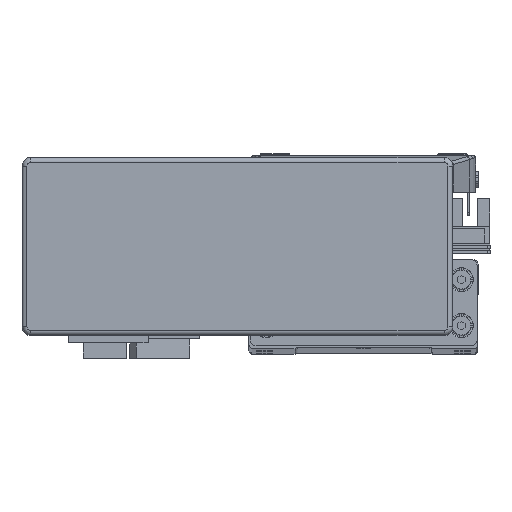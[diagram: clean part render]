
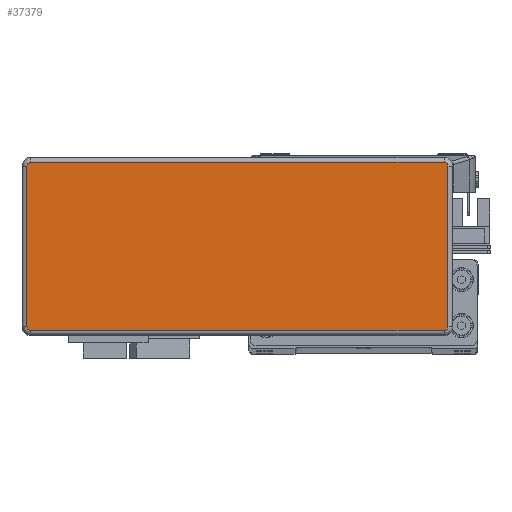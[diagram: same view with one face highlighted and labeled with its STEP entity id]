
A CAD part, top view. The second image highlights one B-rep face of the part: STEP entity #37379.
In plain terms, the highlighted planar face has unit normal (0, 0, 1) as drawn and (0, 0, -1) by its records, which use the part's own axes.
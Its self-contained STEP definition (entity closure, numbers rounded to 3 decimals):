
#5026 = CARTESIAN_POINT ( 'NONE',  ( 73.295, 27.995, -32.2 ) ) ;
#5090 = CARTESIAN_POINT ( 'NONE',  ( 71.995, -29.295, -32.2 ) ) ;
#5117 = CARTESIAN_POINT ( 'NONE',  ( -71.995, -29.295, -32.2 ) ) ;
#5118 = CARTESIAN_POINT ( 'NONE',  ( -73.295, -27.995, -32.2 ) ) ;
#5128 = CARTESIAN_POINT ( 'NONE',  ( -73.295, 27.995, -32.2 ) ) ;
#5144 = CARTESIAN_POINT ( 'NONE',  ( -71.995, 29.295, -32.2 ) ) ;
#5164 = CARTESIAN_POINT ( 'NONE',  ( 73.295, -27.995, -32.2 ) ) ;
#5166 = CARTESIAN_POINT ( 'NONE',  ( 71.995, 29.295, -32.2 ) ) ;
#6577 = ORIENTED_EDGE ( 'NONE', *, *, #18247, .T. ) ;
#6581 = ORIENTED_EDGE ( 'NONE', *, *, #18287, .T. ) ;
#6590 = ORIENTED_EDGE ( 'NONE', *, *, #18289, .T. ) ;
#6592 = ORIENTED_EDGE ( 'NONE', *, *, #18249, .T. ) ;
#6601 = ORIENTED_EDGE ( 'NONE', *, *, #18305, .T. ) ;
#6602 = ORIENTED_EDGE ( 'NONE', *, *, #18269, .T. ) ;
#6605 = ORIENTED_EDGE ( 'NONE', *, *, #18303, .T. ) ;
#12964 = AXIS2_PLACEMENT_3D ( 'NONE', #44151, #44114, #44152 ) ;
#13062 = AXIS2_PLACEMENT_3D ( 'NONE', #44259, #44272, #44270 ) ;
#13133 = AXIS2_PLACEMENT_3D ( 'NONE', #44301, #44321, #44312 ) ;
#13137 = AXIS2_PLACEMENT_3D ( 'NONE', #44295, #44318, #44319 ) ;
#18247 = EDGE_CURVE ( 'NONE', #36037, #36092, #34870, .T. ) ;
#18249 = EDGE_CURVE ( 'NONE', #36113, #36010, #34871, .T. ) ;
#18257 = EDGE_CURVE ( 'NONE', #36104, #36113, #34915, .T. ) ;
#18269 = EDGE_CURVE ( 'NONE', #36065, #36086, #34924, .T. ) ;
#18287 = EDGE_CURVE ( 'NONE', #36010, #36103, #34931, .T. ) ;
#18289 = EDGE_CURVE ( 'NONE', #36103, #36065, #34975, .T. ) ;
#18303 = EDGE_CURVE ( 'NONE', #36092, #36104, #34955, .T. ) ;
#18305 = EDGE_CURVE ( 'NONE', #36086, #36037, #34932, .T. ) ;
#22993 = AXIS2_PLACEMENT_3D ( 'NONE', #28315, #28284, #28324 ) ;
#25876 = FACE_OUTER_BOUND ( 'NONE', #36841, .T. ) ;
#26138 = ORIENTED_EDGE ( 'NONE', *, *, #18257, .T. ) ;
#28284 = DIRECTION ( 'NONE',  ( 0., 0., 1. ) ) ;
#28315 = CARTESIAN_POINT ( 'NONE',  ( 71.995, -27.995, -32.2 ) ) ;
#28320 = PLANE ( 'NONE',  #22993 ) ;
#28324 = DIRECTION ( 'NONE',  ( 1., 0., 0. ) ) ;
#34870 = LINE ( 'NONE', #44140, #34896 ) ;
#34871 = CIRCLE ( 'NONE', #12964, 1.3 ) ;
#34882 = VECTOR ( 'NONE', #44224, 1000. ) ;
#34896 = VECTOR ( 'NONE', #44123, 1000. ) ;
#34903 = VECTOR ( 'NONE', #44174, 1000. ) ;
#34915 = LINE ( 'NONE', #44184, #34903 ) ;
#34924 = LINE ( 'NONE', #44236, #34882 ) ;
#34931 = LINE ( 'NONE', #44255, #34940 ) ;
#34932 = CIRCLE ( 'NONE', #13133, 1.3 ) ;
#34940 = VECTOR ( 'NONE', #44275, 1000. ) ;
#34955 = CIRCLE ( 'NONE', #13137, 1.3 ) ;
#34975 = CIRCLE ( 'NONE', #13062, 1.3 ) ;
#36010 = VERTEX_POINT ( 'NONE', #5026 ) ;
#36037 = VERTEX_POINT ( 'NONE', #5118 ) ;
#36065 = VERTEX_POINT ( 'NONE', #5090 ) ;
#36086 = VERTEX_POINT ( 'NONE', #5117 ) ;
#36092 = VERTEX_POINT ( 'NONE', #5128 ) ;
#36103 = VERTEX_POINT ( 'NONE', #5164 ) ;
#36104 = VERTEX_POINT ( 'NONE', #5144 ) ;
#36113 = VERTEX_POINT ( 'NONE', #5166 ) ;
#36841 = EDGE_LOOP ( 'NONE', ( #6581, #6590, #6602, #6601, #6577, #6605, #26138, #6592 ) ) ;
#37379 = ADVANCED_FACE ( 'NONE', ( #25876 ), #28320, .F. ) ;
#44114 = DIRECTION ( 'NONE',  ( 0., 0., -1. ) ) ;
#44123 = DIRECTION ( 'NONE',  ( 0., 1., 0. ) ) ;
#44140 = CARTESIAN_POINT ( 'NONE',  ( -73.295, -27.995, -32.2 ) ) ;
#44151 = CARTESIAN_POINT ( 'NONE',  ( 71.995, 27.995, -32.2 ) ) ;
#44152 = DIRECTION ( 'NONE',  ( 1., 0., 0. ) ) ;
#44174 = DIRECTION ( 'NONE',  ( 1., 0., 0. ) ) ;
#44184 = CARTESIAN_POINT ( 'NONE',  ( 71.995, 29.295, -32.2 ) ) ;
#44224 = DIRECTION ( 'NONE',  ( -1., 0., 0. ) ) ;
#44236 = CARTESIAN_POINT ( 'NONE',  ( 71.995, -29.295, -32.2 ) ) ;
#44255 = CARTESIAN_POINT ( 'NONE',  ( 73.295, -27.995, -32.2 ) ) ;
#44259 = CARTESIAN_POINT ( 'NONE',  ( 71.995, -27.995, -32.2 ) ) ;
#44270 = DIRECTION ( 'NONE',  ( 1., 0., 0. ) ) ;
#44272 = DIRECTION ( 'NONE',  ( 0., 0., -1. ) ) ;
#44275 = DIRECTION ( 'NONE',  ( 0., -1., 0. ) ) ;
#44295 = CARTESIAN_POINT ( 'NONE',  ( -71.995, 27.995, -32.2 ) ) ;
#44301 = CARTESIAN_POINT ( 'NONE',  ( -71.995, -27.995, -32.2 ) ) ;
#44312 = DIRECTION ( 'NONE',  ( 1., 0., 0. ) ) ;
#44318 = DIRECTION ( 'NONE',  ( 0., 0., -1. ) ) ;
#44319 = DIRECTION ( 'NONE',  ( 1., 0., 0. ) ) ;
#44321 = DIRECTION ( 'NONE',  ( 0., 0., -1. ) ) ;
